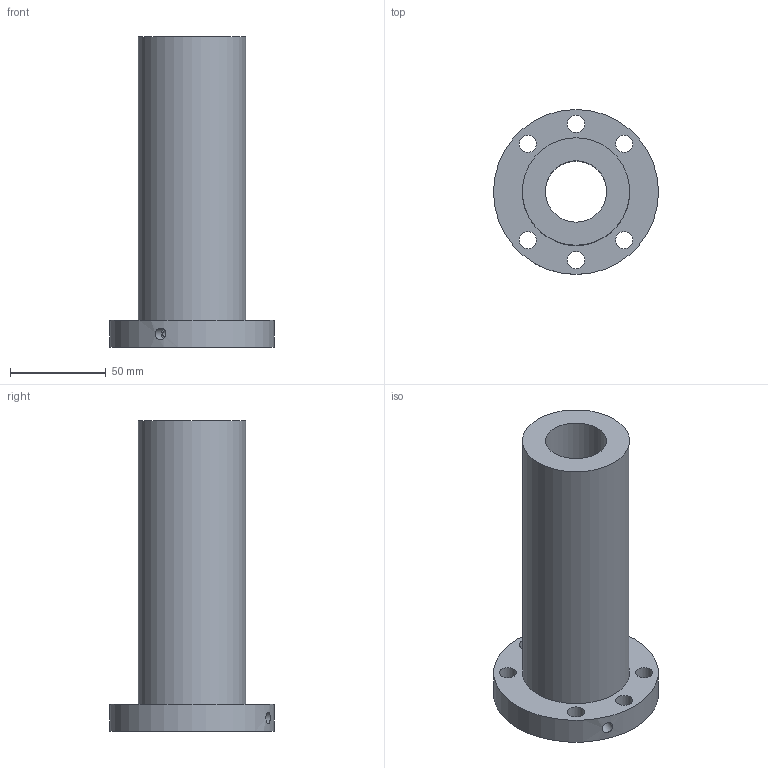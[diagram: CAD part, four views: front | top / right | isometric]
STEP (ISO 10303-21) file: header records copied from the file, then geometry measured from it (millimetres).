
FILE_DESCRIPTION(/* description */ (''),/* implementation_level */ '2;1');
FILE_NAME(/* name */ '32-10K5_4763',/* time_stamp */ '2007-10-15T12:54:01+08:00',/* author */ (''),/* organization */ (''),/* preprocessor_version */ 'ST-DEVELOPER v11',/* originating_system */ 'UGS - NX 5.0',/* authorisation */ '');
FILE_SCHEMA (('CONFIG_CONTROL_DESIGN'));
Length unit declared in the file: millimetre
Products named in the file (1): 32-10K5_4763
Bounding box: 86 x 86 x 162 mm (x, y, z)
Volume: 309752.2 mm3; surface area: 58091 mm2
Topology: 1 solids, 1 shells, 15 faces, 34 edges, 23 vertices
Faces by surface type: cylinder 11, plane 4
Full cylindrical faces by diameter (mm): 4 x1, 6 x1, 9 x6, 32 x1, 56 x1, 86 x1
Entity records: 600 total; most frequent: CARTESIAN_POINT 174, DIRECTION 72, FACE_BOUND 44, EDGE_LOOP 44, ORIENTED_EDGE 44, AXIS2_PLACEMENT_3D 36, VERTEX_POINT 22, EDGE_CURVE 22
